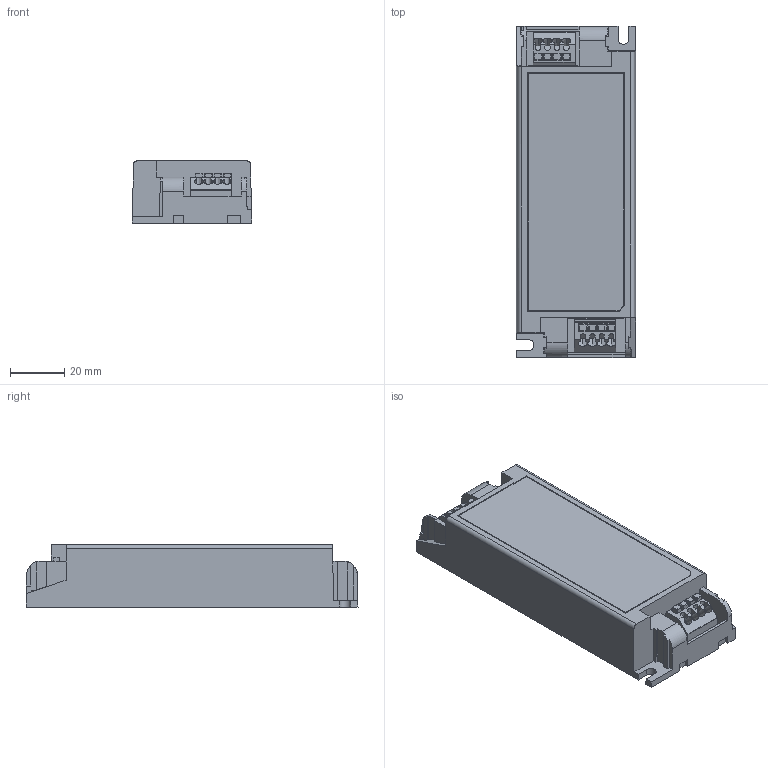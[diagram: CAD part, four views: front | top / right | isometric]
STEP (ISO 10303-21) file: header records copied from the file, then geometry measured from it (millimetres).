
FILE_DESCRIPTION(('Creo Elements/Direct Modeling STEP Export'),'2;1');
FILE_NAME('K125.stp','2026-04-09T14:10:08',(''),(''),'Creo Elements/Direct Modeling STEP processor for AP214 (Solid Model)','Creo Elements/Direct Modeling 20.7 06-Apr-2024 (C) Parametric Technology GmbH','');
FILE_SCHEMA(('AUTOMOTIVE_DESIGN { 1 0 10303 214 1 1 1 1 }'));
Length unit declared in the file: millimetre
Products named in the file (7): PCB; Output connector; Input connector; PCB_; casing bottom; casing top; K125
Assembly tree (6 placements, depth 3):
  K125
    casing top
    casing bottom
    PCB_
      Input connector
      Output connector
      PCB
Bounding box: 44 x 122.5 x 23 mm (x, y, z)
Volume: 29825.2 mm3; surface area: 49128.4 mm2
Topology: 5 solids, 5 shells, 610 faces, 1729 edges, 1124 vertices
Faces by surface type: plane 416, extrusion 104, bspline 48, cylinder 42
Entity records: 31643 total; most frequent: CARTESIAN_POINT 16642, ORIENTED_EDGE 3394, DIRECTION 2375, EDGE_CURVE 1697, VECTOR 1361, LINE 1257, VERTEX_POINT 1124, EDGE_LOOP 641
